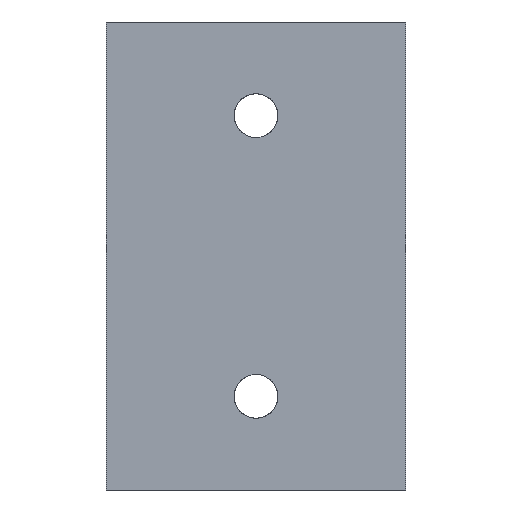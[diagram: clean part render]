
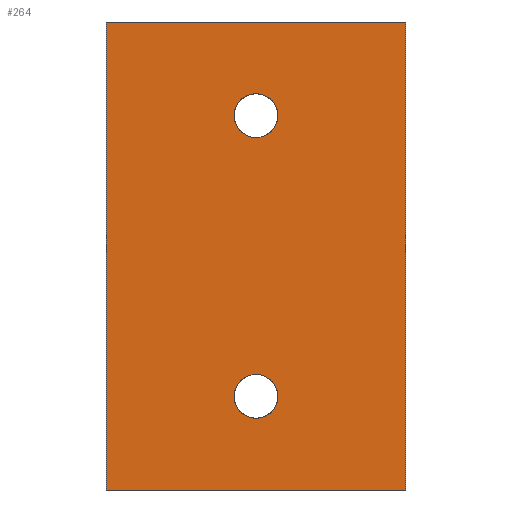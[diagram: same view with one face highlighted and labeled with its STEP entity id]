
A CAD part, front view. The second image highlights one B-rep face of the part: STEP entity #264.
In plain terms, the highlighted face is a extrusion surface.
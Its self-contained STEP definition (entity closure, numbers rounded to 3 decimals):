
#141=CARTESIAN_POINT('Control Point',(-24.,-5.,37.5)) ;
#142=CARTESIAN_POINT('Control Point',(-24.,-5.,-37.5)) ;
#146=CARTESIAN_POINT('Line Origine',(0.,-5.,-37.5)) ;
#150=CARTESIAN_POINT('Vertex',(-24.,-5.,-37.5)) ;
#152=CARTESIAN_POINT('Vertex',(24.,-5.,-37.5)) ;
#155=CARTESIAN_POINT('Line Origine',(24.,-5.,0.)) ;
#159=CARTESIAN_POINT('Vertex',(24.,-5.,37.5)) ;
#162=CARTESIAN_POINT('Line Origine',(0.,-5.,37.5)) ;
#166=CARTESIAN_POINT('Vertex',(-24.,-5.,37.5)) ;
#169=CARTESIAN_POINT('Line Origine',(-24.,-5.,0.)) ;
#181=CARTESIAN_POINT('Control Point',(3.5,-5.,22.5)) ;
#182=CARTESIAN_POINT('Control Point',(3.5,-5.,21.767)) ;
#183=CARTESIAN_POINT('Control Point',(3.308,-5.,21.034)) ;
#184=CARTESIAN_POINT('Control Point',(2.923,-5.,20.368)) ;
#185=CARTESIAN_POINT('Control Point',(2.115,-5.,19.569)) ;
#186=CARTESIAN_POINT('Control Point',(1.09,-5.,19.144)) ;
#187=CARTESIAN_POINT('Control Point',(0.732,-5.,19.048)) ;
#188=CARTESIAN_POINT('Control Point',(-0.001,-5.,18.952)) ;
#189=CARTESIAN_POINT('Control Point',(-0.734,-5.,19.048)) ;
#190=CARTESIAN_POINT('Control Point',(-1.093,-5.,19.144)) ;
#191=CARTESIAN_POINT('Control Point',(-2.116,-5.,19.57)) ;
#192=CARTESIAN_POINT('Control Point',(-2.924,-5.,20.369)) ;
#193=CARTESIAN_POINT('Control Point',(-3.308,-5.,21.035)) ;
#194=CARTESIAN_POINT('Control Point',(-3.5,-5.,21.767)) ;
#195=CARTESIAN_POINT('Control Point',(-3.5,-5.,22.5)) ;
#196=CARTESIAN_POINT('Vertex',(3.5,-5.,22.5)) ;
#198=CARTESIAN_POINT('Vertex',(-3.5,-5.,22.5)) ;
#202=CARTESIAN_POINT('Control Point',(-3.5,-5.,22.5)) ;
#203=CARTESIAN_POINT('Control Point',(-3.5,-5.,23.233)) ;
#204=CARTESIAN_POINT('Control Point',(-3.308,-5.,23.966)) ;
#205=CARTESIAN_POINT('Control Point',(-2.923,-5.,24.632)) ;
#206=CARTESIAN_POINT('Control Point',(-2.115,-5.,25.431)) ;
#207=CARTESIAN_POINT('Control Point',(-1.09,-5.,25.856)) ;
#208=CARTESIAN_POINT('Control Point',(-0.732,-5.,25.952)) ;
#209=CARTESIAN_POINT('Control Point',(0.001,-5.,26.048)) ;
#210=CARTESIAN_POINT('Control Point',(0.734,-5.,25.952)) ;
#211=CARTESIAN_POINT('Control Point',(1.093,-5.,25.856)) ;
#212=CARTESIAN_POINT('Control Point',(2.116,-5.,25.43)) ;
#213=CARTESIAN_POINT('Control Point',(2.924,-5.,24.631)) ;
#214=CARTESIAN_POINT('Control Point',(3.308,-5.,23.965)) ;
#215=CARTESIAN_POINT('Control Point',(3.5,-5.,23.233)) ;
#216=CARTESIAN_POINT('Control Point',(3.5,-5.,22.5)) ;
#223=CARTESIAN_POINT('Control Point',(3.5,-5.,-22.5)) ;
#224=CARTESIAN_POINT('Control Point',(3.5,-5.,-23.233)) ;
#225=CARTESIAN_POINT('Control Point',(3.308,-5.,-23.966)) ;
#226=CARTESIAN_POINT('Control Point',(2.923,-5.,-24.632)) ;
#227=CARTESIAN_POINT('Control Point',(2.115,-5.,-25.431)) ;
#228=CARTESIAN_POINT('Control Point',(1.09,-5.,-25.856)) ;
#229=CARTESIAN_POINT('Control Point',(0.732,-5.,-25.952)) ;
#230=CARTESIAN_POINT('Control Point',(-0.001,-5.,-26.048)) ;
#231=CARTESIAN_POINT('Control Point',(-0.734,-5.,-25.952)) ;
#232=CARTESIAN_POINT('Control Point',(-1.093,-5.,-25.856)) ;
#233=CARTESIAN_POINT('Control Point',(-2.116,-5.,-25.43)) ;
#234=CARTESIAN_POINT('Control Point',(-2.924,-5.,-24.631)) ;
#235=CARTESIAN_POINT('Control Point',(-3.308,-5.,-23.965)) ;
#236=CARTESIAN_POINT('Control Point',(-3.5,-5.,-23.233)) ;
#237=CARTESIAN_POINT('Control Point',(-3.5,-5.,-22.5)) ;
#238=CARTESIAN_POINT('Vertex',(3.5,-5.,-22.5)) ;
#240=CARTESIAN_POINT('Vertex',(-3.5,-5.,-22.5)) ;
#244=CARTESIAN_POINT('Control Point',(-3.5,-5.,-22.5)) ;
#245=CARTESIAN_POINT('Control Point',(-3.5,-5.,-21.767)) ;
#246=CARTESIAN_POINT('Control Point',(-3.308,-5.,-21.034)) ;
#247=CARTESIAN_POINT('Control Point',(-2.923,-5.,-20.368)) ;
#248=CARTESIAN_POINT('Control Point',(-2.115,-5.,-19.569)) ;
#249=CARTESIAN_POINT('Control Point',(-1.09,-5.,-19.144)) ;
#250=CARTESIAN_POINT('Control Point',(-0.732,-5.,-19.048)) ;
#251=CARTESIAN_POINT('Control Point',(0.001,-5.,-18.952)) ;
#252=CARTESIAN_POINT('Control Point',(0.734,-5.,-19.048)) ;
#253=CARTESIAN_POINT('Control Point',(1.093,-5.,-19.144)) ;
#254=CARTESIAN_POINT('Control Point',(2.116,-5.,-19.57)) ;
#255=CARTESIAN_POINT('Control Point',(2.924,-5.,-20.369)) ;
#256=CARTESIAN_POINT('Control Point',(3.308,-5.,-21.035)) ;
#257=CARTESIAN_POINT('Control Point',(3.5,-5.,-21.767)) ;
#258=CARTESIAN_POINT('Control Point',(3.5,-5.,-22.5)) ;
#143=DIRECTION('Vector Direction',(1.,0.,0.)) ;
#147=DIRECTION('Vector Direction',(1.,0.,0.)) ;
#156=DIRECTION('Vector Direction',(0.,0.,-1.)) ;
#163=DIRECTION('Vector Direction',(1.,0.,0.)) ;
#170=DIRECTION('Vector Direction',(0.,0.,-1.)) ;
#175=ORIENTED_EDGE('',*,*,#154,.T.) ;
#176=ORIENTED_EDGE('',*,*,#161,.T.) ;
#177=ORIENTED_EDGE('',*,*,#168,.T.) ;
#178=ORIENTED_EDGE('',*,*,#173,.T.) ;
#219=ORIENTED_EDGE('',*,*,#200,.T.) ;
#220=ORIENTED_EDGE('',*,*,#217,.T.) ;
#261=ORIENTED_EDGE('',*,*,#242,.T.) ;
#262=ORIENTED_EDGE('',*,*,#259,.T.) ;
#221=FACE_BOUND('',#218,.T.) ;
#263=FACE_BOUND('',#260,.T.) ;
#144=VECTOR('Extrusion Surface Vector',#143,1.) ;
#148=VECTOR('Line Direction',#147,1.) ;
#157=VECTOR('Line Direction',#156,1.) ;
#164=VECTOR('Line Direction',#163,1.) ;
#171=VECTOR('Line Direction',#170,1.) ;
#264=ADVANCED_FACE('Superficie.3',(#179,#221,#263),#145,.T.) ;
#140=B_SPLINE_CURVE_WITH_KNOTS('',1,(#141,#142),.UNSPECIFIED.,.F.,.U.,(2,2),(-37.5,37.5),.UNSPECIFIED.) ;
#180=B_SPLINE_CURVE_WITH_KNOTS('',5,(#181,#182,#183,#184,#185,#186,#187,#188,#189,#190,#191,#192,#193,#194,#195),.UNSPECIFIED.,.F.,.U.,(6,3,3,3,6),(0.,5.185,7.777,10.369,15.55),.UNSPECIFIED.) ;
#201=B_SPLINE_CURVE_WITH_KNOTS('',5,(#202,#203,#204,#205,#206,#207,#208,#209,#210,#211,#212,#213,#214,#215,#216),.UNSPECIFIED.,.F.,.U.,(6,3,3,3,6),(0.,5.185,7.777,10.369,15.55),.UNSPECIFIED.) ;
#222=B_SPLINE_CURVE_WITH_KNOTS('',5,(#223,#224,#225,#226,#227,#228,#229,#230,#231,#232,#233,#234,#235,#236,#237),.UNSPECIFIED.,.F.,.U.,(6,3,3,3,6),(0.,5.185,7.777,10.369,15.55),.UNSPECIFIED.) ;
#243=B_SPLINE_CURVE_WITH_KNOTS('',5,(#244,#245,#246,#247,#248,#249,#250,#251,#252,#253,#254,#255,#256,#257,#258),.UNSPECIFIED.,.F.,.U.,(6,3,3,3,6),(0.,5.185,7.777,10.369,15.55),.UNSPECIFIED.) ;
#154=EDGE_CURVE('',#151,#153,#149,.T.) ;
#161=EDGE_CURVE('',#153,#160,#158,.F.) ;
#168=EDGE_CURVE('',#160,#167,#165,.F.) ;
#173=EDGE_CURVE('',#167,#151,#172,.T.) ;
#200=EDGE_CURVE('',#197,#199,#180,.T.) ;
#217=EDGE_CURVE('',#199,#197,#201,.T.) ;
#242=EDGE_CURVE('',#239,#241,#222,.T.) ;
#259=EDGE_CURVE('',#241,#239,#243,.T.) ;
#174=EDGE_LOOP('',(#175,#176,#177,#178)) ;
#218=EDGE_LOOP('',(#219,#220)) ;
#260=EDGE_LOOP('',(#261,#262)) ;
#179=FACE_OUTER_BOUND('',#174,.T.) ;
#149=LINE('Line',#146,#148) ;
#158=LINE('Line',#155,#157) ;
#165=LINE('Line',#162,#164) ;
#172=LINE('Line',#169,#171) ;
#145=SURFACE_OF_LINEAR_EXTRUSION('generated tabulated cylinder',#140,#144) ;
#151=VERTEX_POINT('',#150) ;
#153=VERTEX_POINT('',#152) ;
#160=VERTEX_POINT('',#159) ;
#167=VERTEX_POINT('',#166) ;
#197=VERTEX_POINT('',#196) ;
#199=VERTEX_POINT('',#198) ;
#239=VERTEX_POINT('',#238) ;
#241=VERTEX_POINT('',#240) ;
